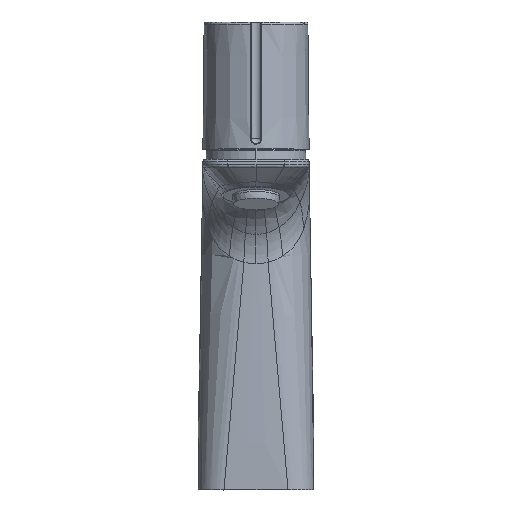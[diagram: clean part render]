
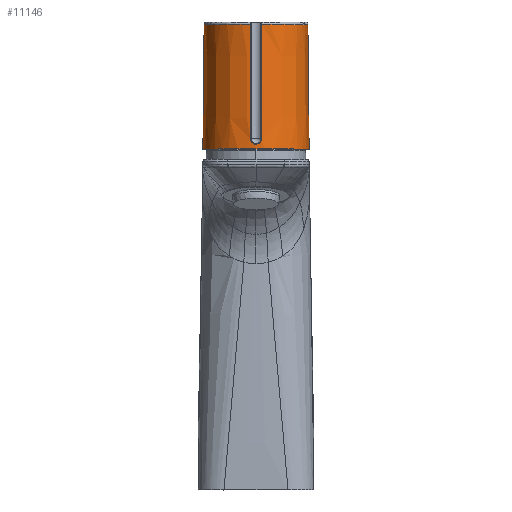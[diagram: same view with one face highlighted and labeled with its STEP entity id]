
A CAD part, top view. The second image highlights one B-rep face of the part: STEP entity #11146.
In plain terms, the highlighted conical face has half-angle 0.562 degrees and reference radius 21.004 mm.
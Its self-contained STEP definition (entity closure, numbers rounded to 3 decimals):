
#2688=CARTESIAN_POINT('',(-2.177,186.16,20.645));
#2689=CARTESIAN_POINT('',(-2.177,181.113,20.695));
#2690=CARTESIAN_POINT('',(-2.177,170.998,20.795));
#2691=CARTESIAN_POINT('',(-2.178,155.766,20.945));
#2692=CARTESIAN_POINT('',(-2.178,145.57,21.045));
#2693=CARTESIAN_POINT('',(-2.178,140.463,21.096));
#2695=CARTESIAN_POINT('',(-2.178,140.463,21.096));
#2696=CARTESIAN_POINT('',(-2.178,140.364,21.097));
#2697=CARTESIAN_POINT('',(-2.165,140.17,21.1));
#2698=CARTESIAN_POINT('',(-2.109,139.882,21.108));
#2699=CARTESIAN_POINT('',(-2.015,139.605,21.12));
#2700=CARTESIAN_POINT('',(-1.887,139.343,21.135));
#2701=CARTESIAN_POINT('',(-1.726,139.102,21.151));
#2702=CARTESIAN_POINT('',(-1.536,138.884,21.168));
#2703=CARTESIAN_POINT('',(-1.32,138.694,21.184));
#2704=CARTESIAN_POINT('',(-1.083,138.535,21.199));
#2705=CARTESIAN_POINT('',(-0.827,138.409,
21.212));
#2706=CARTESIAN_POINT('',(-0.559,138.318,
21.222));
#2707=CARTESIAN_POINT('',(-0.281,138.262,
21.228));
#2708=CARTESIAN_POINT('',(0.002,138.244,21.23));
#2709=CARTESIAN_POINT('',(0.284,138.263,21.228));
#2710=CARTESIAN_POINT('',(0.562,138.318,21.222));
#2711=CARTESIAN_POINT('',(0.83,138.41,21.212));
#2712=CARTESIAN_POINT('',(1.085,138.537,21.199));
#2713=CARTESIAN_POINT('',(1.323,138.696,21.184));
#2714=CARTESIAN_POINT('',(1.538,138.886,21.168));
#2715=CARTESIAN_POINT('',(1.728,139.104,21.151));
#2716=CARTESIAN_POINT('',(1.888,139.345,21.135));
#2717=CARTESIAN_POINT('',(2.016,139.607,21.12));
#2718=CARTESIAN_POINT('',(2.109,139.884,21.108));
#2719=CARTESIAN_POINT('',(2.166,140.172,21.1));
#2720=CARTESIAN_POINT('',(2.178,140.365,21.097));
#2721=CARTESIAN_POINT('',(2.178,140.463,21.096));
#2723=CARTESIAN_POINT('',(2.178,140.463,21.096));
#2724=CARTESIAN_POINT('',(2.178,145.57,21.045));
#2725=CARTESIAN_POINT('',(2.178,155.765,20.945));
#2726=CARTESIAN_POINT('',(2.177,170.998,20.795));
#2727=CARTESIAN_POINT('',(2.177,181.112,20.695));
#2728=CARTESIAN_POINT('',(2.177,186.16,20.645));
#2730=CARTESIAN_POINT('',(0.,186.16,0.));
#2731=DIRECTION('',(0.,1.,0.));
#2732=DIRECTION('',(0.105,0.,0.994));
#2733=AXIS2_PLACEMENT_3D('',#2730,#2731,#2732);
#2735=CARTESIAN_POINT('',(0.,136.352,0.));
#2736=DIRECTION('',(0.,1.,0.));
#2737=DIRECTION('',(-1.,0.,0.));
#2738=AXIS2_PLACEMENT_3D('',#2735,#2736,#2737);
#2740=CARTESIAN_POINT('',(0.,186.16,0.));
#2741=DIRECTION('',(0.,1.,0.));
#2742=DIRECTION('',(-1.,0.,0.));
#2743=AXIS2_PLACEMENT_3D('',#2740,#2741,#2742);
#2818=CARTESIAN_POINT('',(-2.177,186.16,20.645));
#2844=DIRECTION('',(0.01,1.,0.));
#2845=VECTOR('',#2844,49.81);
#2846=CARTESIAN_POINT('',(-21.248,136.352,
0.));
#2847=LINE('',#2846,#2845);
#2853=DIRECTION('',(-0.01,1.,0.));
#2854=VECTOR('',#2853,49.81);
#2855=CARTESIAN_POINT('',(21.248,136.352,
0.));
#2856=LINE('',#2855,#2854);
#3259=CARTESIAN_POINT('',(-21.248,136.352,0.));
#3260=CARTESIAN_POINT('',(21.248,136.352,
0.));
#3261=VERTEX_POINT('',#3259);
#3262=VERTEX_POINT('',#3260);
#3267=CARTESIAN_POINT('',(20.76,186.16,
0.));
#3268=CARTESIAN_POINT('',(-20.76,186.16,
0.));
#3269=VERTEX_POINT('',#3267);
#3270=VERTEX_POINT('',#3268);
#3274=VERTEX_POINT('',#2818);
#3277=VERTEX_POINT('',#2693);
#3279=VERTEX_POINT('',#2721);
#3282=VERTEX_POINT('',#2728);
#11124=CARTESIAN_POINT('',(0.,161.256,0.));
#11125=DIRECTION('',(0.,-1.,0.));
#11126=DIRECTION('',(-1.,0.,0.));
#11127=AXIS2_PLACEMENT_3D('',#11124,#11125,#11126);
#11128=CONICAL_SURFACE('',#11127,21.004,0.562);
#11130=ORIENTED_EDGE('',*,*,#11129,.T.);
#11132=ORIENTED_EDGE('',*,*,#11131,.T.);
#11134=ORIENTED_EDGE('',*,*,#11133,.T.);
#11136=ORIENTED_EDGE('',*,*,#11135,.T.);
#11138=ORIENTED_EDGE('',*,*,#11137,.F.);
#11139=ORIENTED_EDGE('',*,*,#11114,.F.);
#11141=ORIENTED_EDGE('',*,*,#11140,.T.);
#11143=ORIENTED_EDGE('',*,*,#11142,.T.);
#11144=EDGE_LOOP('',(#11130,#11132,#11134,#11136,#11138,#11139,#11141,#11143));
#11145=FACE_OUTER_BOUND('',#11144,.F.);
#11146=ADVANCED_FACE('',(#11145),#11128,.T.);
#2694=B_SPLINE_CURVE_WITH_KNOTS('',3,(#2688,#2689,#2690,#2691,#2692,#2693),
.UNSPECIFIED.,.F.,.F.,(4,1,1,4),(0.,0.333,0.667,1.),
.UNSPECIFIED.);
#2722=B_SPLINE_CURVE_WITH_KNOTS('',3,(#2695,#2696,#2697,#2698,#2699,#2700,#2701,
#2702,#2703,#2704,#2705,#2706,#2707,#2708,#2709,#2710,#2711,#2712,#2713,#2714,
#2715,#2716,#2717,#2718,#2719,#2720,#2721),.UNSPECIFIED.,.F.,.F.,(4,1,1,1,1,1,1,
1,1,1,1,1,1,1,1,1,1,1,1,1,1,1,1,1,4),(0.,0.042,0.083,
0.125,0.167,0.208,0.25,0.292,
0.333,0.375,0.417,0.458,0.5,
0.542,0.583,0.625,0.667,0.708,
0.75,0.792,0.833,0.875,0.917,
0.958,1.),.UNSPECIFIED.);
#2729=B_SPLINE_CURVE_WITH_KNOTS('',3,(#2723,#2724,#2725,#2726,#2727,#2728),
.UNSPECIFIED.,.F.,.F.,(4,1,1,4),(0.,0.333,0.667,1.),
.UNSPECIFIED.);
#2734=CIRCLE('',#2733,20.76);
#2739=CIRCLE('',#2738,21.248);
#2744=CIRCLE('',#2743,20.76);
#11114=EDGE_CURVE('',#3261,#3262,#2739,.T.);
#11129=EDGE_CURVE('',#3274,#3277,#2694,.T.);
#11131=EDGE_CURVE('',#3277,#3279,#2722,.T.);
#11133=EDGE_CURVE('',#3279,#3282,#2729,.T.);
#11135=EDGE_CURVE('',#3282,#3269,#2734,.T.);
#11137=EDGE_CURVE('',#3262,#3269,#2856,.T.);
#11140=EDGE_CURVE('',#3261,#3270,#2847,.T.);
#11142=EDGE_CURVE('',#3270,#3274,#2744,.T.);
